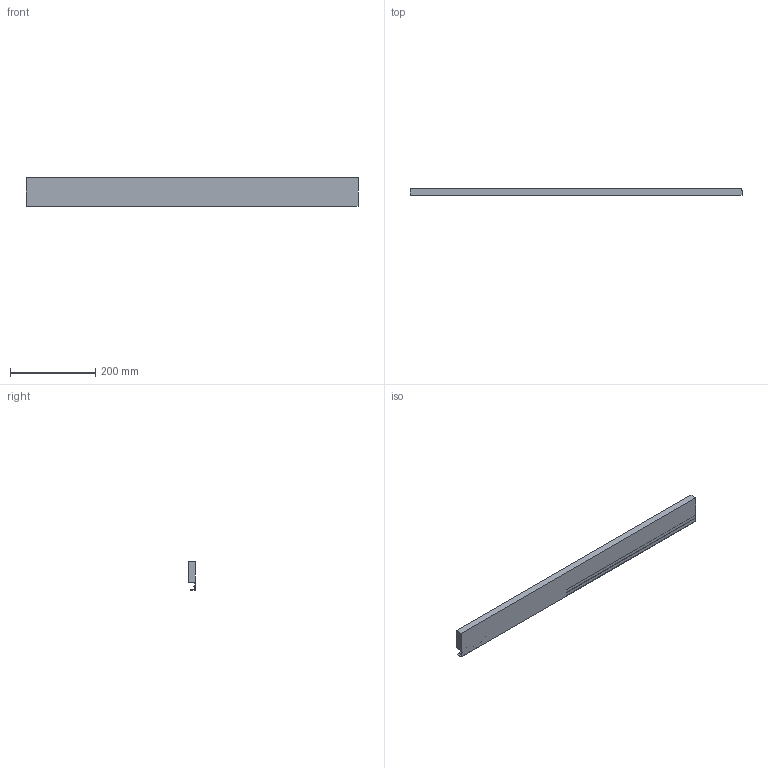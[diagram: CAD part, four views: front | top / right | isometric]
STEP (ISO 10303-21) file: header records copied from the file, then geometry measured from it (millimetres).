
FILE_DESCRIPTION (( 'STEP AP214' ), '1' );
FILE_NAME ('Innenschub-Blendenprofil_KAB900_S16.step', '2010-09-23T12:26:52', ( 'grass' ), ( '' ), 'SwSTEP 2.0', 'SolidWorks 2010', '' );
FILE_SCHEMA (( 'AUTOMOTIVE_DESIGN' ));
Length unit declared in the file: millimetre
Products named in the file (1): Innenschub-Blendenprofil_KAB900_S16
Bounding box: 777 x 15.9 x 67.6 mm (x, y, z)
Volume: 644264.2 mm3; surface area: 154140.4 mm2
Topology: 1 solids, 1 shells, 17 faces, 42 edges, 28 vertices
Faces by surface type: plane 15, cylinder 2
Entity records: 534 total; most frequent: CARTESIAN_POINT 88, ORIENTED_EDGE 84, DIRECTION 82, EDGE_CURVE 42, LINE 38, VECTOR 38, VERTEX_POINT 28, AXIS2_PLACEMENT_3D 22
